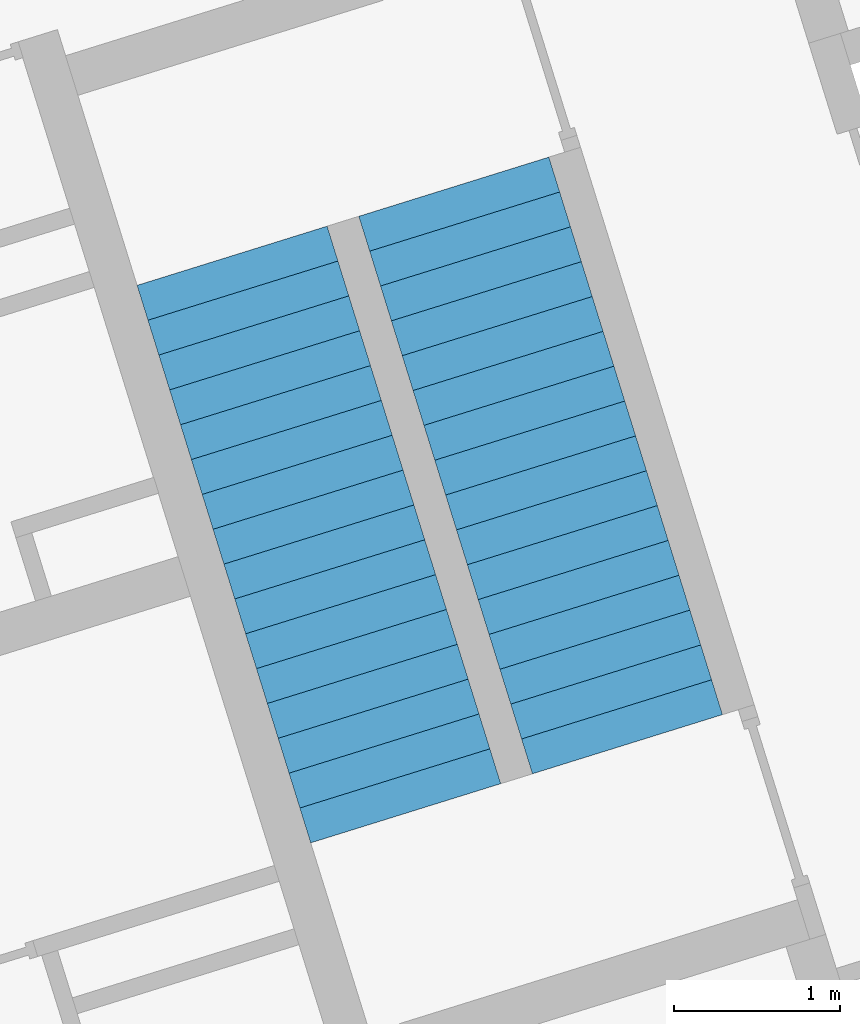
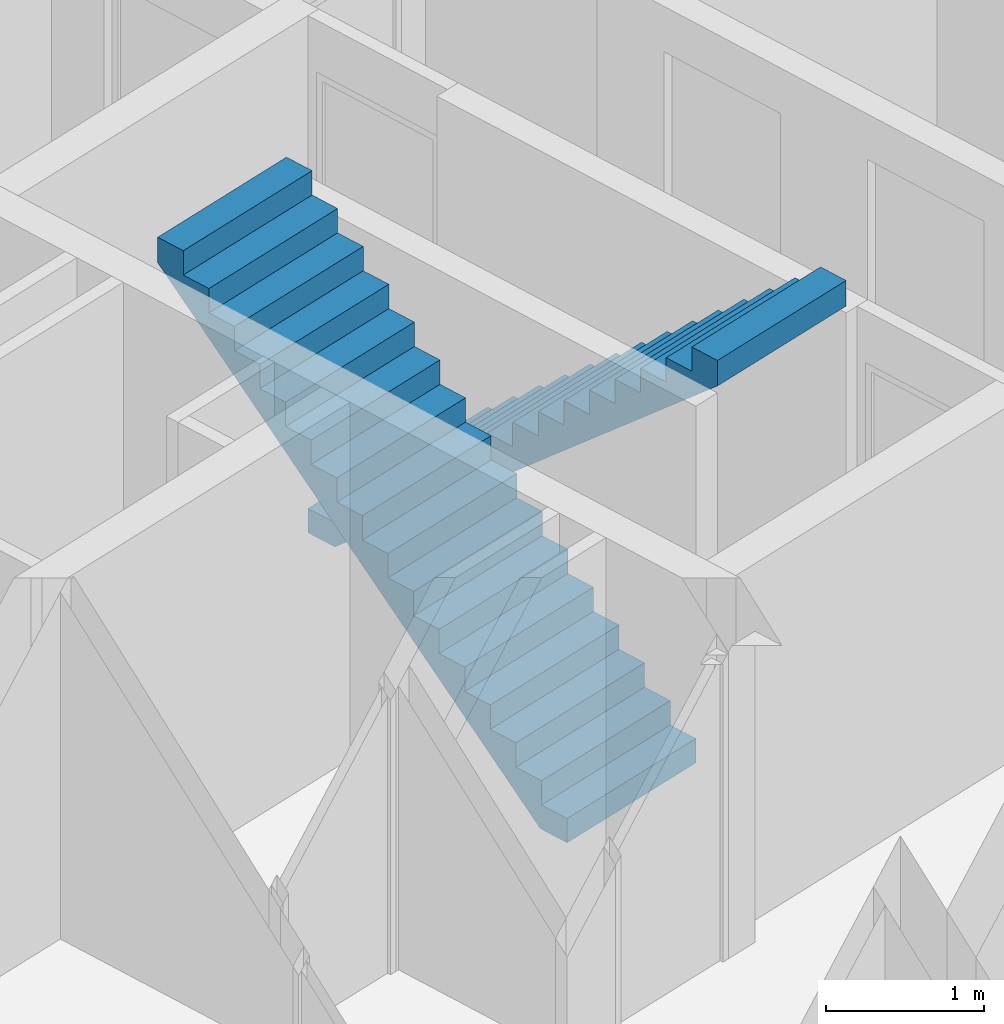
# One storey, part 12 of 12: 2 stair flights, 2 elements without a shape of their own.
"""IFC4 building model written with IfcOpenShell, lengths in metres."""

from ifc_helpers import new_model, entity, si_unit, converted_unit, direction, frame, origin, place, context, subcontext, project, spatial, polygons, material, type_object, element, aggregate, save


model = new_model("IFC4")

# Units and contexts
model_context = context("Model", 3, precision=1e-05, world=origin(), true_north=direction((6.12323399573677e-17, 1.0)))
body_context = subcontext(model_context, "Body", "Model", "MODEL_VIEW")
ifc_project = project(units=[si_unit("LENGTHUNIT", "METRE"), si_unit("AREAUNIT", "SQUARE_METRE"), converted_unit("PLANEANGLEUNIT", "DEGREE", entity("IfcPlaneAngleMeasure", 0.0174532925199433), si_unit("PLANEANGLEUNIT", "RADIAN"), dimensions=[0, 0, 0, 0, 0, 0, 0]), si_unit("VOLUMEUNIT", "CUBIC_METRE")], contexts=[model_context])

# Site, building, storey
site_placement = place(None, frame((13.1347999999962, 11.9886000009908, 0.0), z_axis=(0.0, 0.0, 1.0), x_axis=(0.954770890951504, 0.297342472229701, 0.0)))
site = spatial("IfcSite", under=ifc_project, at=site_placement, Name="Schiehaven", CompositionType="ELEMENT")
building_placement = place(site_placement, origin())
building = spatial("IfcBuilding", under=site, at=building_placement, Name="VORM huis", CompositionType="ELEMENT")
storey_placement = place(building_placement, frame((0.0, 0.0, 3.9)))
storey = spatial("IfcBuildingStorey", under=building, at=storey_placement, Name="01 eerste verdieping", CompositionType="ELEMENT", Elevation=3.9)

# Stair, stair flight
stair_type = type_object("IfcStairType", Name="Trap", PredefinedType="STRAIGHT_RUN_STAIR")
stair_1_placement = place(storey_placement, origin())
stair_1 = element("IfcStair", 1, at=stair_1_placement, inside=storey, type_object=stair_type, Name="Hoofdtrap", ObjectType="Precast Stair:NLRS_24_STR_reguliere trap-woonfunctie-breedte 1200mm_gen", PredefinedType="STRAIGHT_RUN_STAIR")
ifc_material = material(Name="beton_gewapend_prefab-element", Category="Miscellaneous")
stair_flight_type = type_object("IfcStairFlightType", Name="Monolithic Run:NLRS_24_STRR_trap-beton prefab-monolithisch-recht_gen_rsf", PredefinedType="STRAIGHT")
stair_flight_1_placement = place(stair_1_placement, frame((65.1250000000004, 15.29, 0.0)))
stair_flight_1 = element("IfcStairFlight", 2, at=stair_flight_1_placement, type_object=stair_flight_type, material=ifc_material, Name="Hoofdtrap Run 1", ObjectType="Monolithic Run:NLRS_24_STRR_trap-beton prefab-monolithisch-recht_gen_rsf", PredefinedType="STRAIGHT", context=body_context, shape_type="Tessellation", body=[
    polygons([(1.4210854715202e-14, 0.220000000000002, 0.1875), (1.4210854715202e-14, 1.77635683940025e-15, 0.1875), (1.20000000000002, 1.77635683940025e-15, 0.1875), (1.20000000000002, 0.220000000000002, 0.1875), (1.20000000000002, 1.77635683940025e-15, -4.44089209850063e-16), (1.20000000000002, 0.220000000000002, -4.44089209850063e-16), (1.4210854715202e-14, 1.77635683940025e-15, -4.44089209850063e-16), (1.4210854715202e-14, 0.220000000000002, -4.44089209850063e-16), (1.4210854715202e-14, 0.440000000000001, 0.375), (1.4210854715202e-14, 0.220000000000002, 0.375), (1.20000000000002, 0.220000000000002, 0.375), (1.20000000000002, 0.440000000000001, 0.375), (1.20000000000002, 0.231248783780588, 8.88178419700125e-16), (1.20000000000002, 0.440000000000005, 0.177912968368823), (1.4210854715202e-14, 0.440000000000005, 0.177912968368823), (1.4210854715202e-14, 0.231248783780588, 8.88178419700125e-16), (1.4210854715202e-14, 0.659999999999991, 0.5625), (1.4210854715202e-14, 0.440000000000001, 0.5625), (1.20000000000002, 0.440000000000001, 0.5625), (1.20000000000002, 0.659999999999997, 0.5625), (1.20000000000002, 0.660000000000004, 0.365412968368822), (1.4210854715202e-14, 0.660000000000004, 0.365412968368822), (1.4210854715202e-14, 0.879999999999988, 0.75), (1.4210854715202e-14, 0.659999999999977, 0.75), (1.20000000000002, 0.659999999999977, 0.75), (1.20000000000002, 0.879999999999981, 0.75), (1.20000000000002, 0.879999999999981, 0.5529129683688), (0.0, 0.879999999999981, 0.5529129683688), (0.0, 1.1, 0.9375), (0.0, 0.880000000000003, 0.9375), (1.20000000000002, 0.880000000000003, 0.9375), (1.20000000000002, 1.1, 0.9375), (1.20000000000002, 1.1, 0.740412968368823), (0.0, 1.1, 0.740412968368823), (0.0, 1.32, 1.125), (0.0, 1.1, 1.125), (1.20000000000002, 1.1, 1.125), (1.20000000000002, 1.32, 1.125), (1.20000000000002, 1.32, 0.927912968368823), (0.0, 1.32, 0.927912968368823), (0.0, 1.54, 1.3125), (0.0, 1.32, 1.3125), (1.20000000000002, 1.32, 1.3125), (1.20000000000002, 1.54, 1.3125), (1.20000000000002, 1.54000000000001, 1.11541296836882), (0.0, 1.54000000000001, 1.11541296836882), (0.0, 1.76, 1.5), (0.0, 1.54, 1.5), (1.20000000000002, 1.54, 1.5), (1.20000000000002, 1.76, 1.5), (1.20000000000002, 1.76000000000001, 1.30291296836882), (0.0, 1.76000000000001, 1.30291296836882), (0.0, 1.98, 1.6875), (0.0, 1.76000000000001, 1.6875), (1.20000000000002, 1.76000000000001, 1.6875), (1.20000000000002, 1.98, 1.6875), (1.20000000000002, 1.98000000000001, 1.49041296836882), (0.0, 1.98000000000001, 1.49041296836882), (0.0, 2.2, 1.875), (0.0, 1.98, 1.875), (1.20000000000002, 1.98, 1.875), (1.20000000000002, 2.2, 1.875), (1.20000000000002, 2.2, 1.67791296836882), (0.0, 2.2, 1.67791296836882), (0.0, 2.41999999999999, 2.0625), (0.0, 2.2, 2.0625), (1.20000000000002, 2.2, 2.0625), (1.20000000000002, 2.42, 2.0625), (1.20000000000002, 2.42000000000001, 1.86541296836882), (0.0, 2.42000000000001, 1.86541296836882), (0.0, 2.63999999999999, 2.25), (0.0, 2.41999999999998, 2.25), (1.20000000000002, 2.41999999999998, 2.25), (1.20000000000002, 2.63999999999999, 2.25), (1.20000000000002, 2.63999999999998, 2.0529129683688), (0.0, 2.63999999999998, 2.0529129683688), (0.0, 2.86, 2.4375), (0.0, 2.64, 2.4375), (1.2, 2.64, 2.4375), (1.2, 2.86, 2.4375), (1.2, 2.86, 2.24041296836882), (0.0, 2.86, 2.24041296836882), (0.0, 3.08, 2.625), (0.0, 2.86, 2.625), (1.2, 2.86, 2.625), (1.2, 3.08, 2.625), (1.2, 3.08, 2.42791296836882), (0.0, 3.08, 2.42791296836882), (0.0, 3.3, 2.8125), (0.0, 3.08000000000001, 2.8125), (1.2, 3.08000000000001, 2.8125), (1.2, 3.3, 2.8125), (1.2, 3.3, 2.61541296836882), (0.0, 3.3, 2.61541296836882), (0.0, 3.52, 3.0), (0.0, 3.3, 3.0), (1.2, 3.3, 3.0), (1.2, 3.52, 3.0), (1.2, 3.52, 2.80291296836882), (0.0, 3.52, 2.80291296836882)], [[[1, 2, 3, 4]], [[4, 3, 5, 6]], [[3, 2, 7, 5]], [[2, 1, 8, 7]], [[9, 10, 11, 12]], [[4, 6, 13, 14, 12, 11]], [[1, 4, 11, 10]], [[8, 1, 10, 9, 15, 16]], [[17, 18, 19, 20]], [[20, 19, 12, 14, 21]], [[9, 12, 19, 18]], [[18, 17, 22, 15, 9]], [[23, 24, 25, 26]], [[26, 25, 20, 21, 27]], [[17, 20, 25, 24]], [[24, 23, 28, 22, 17]], [[29, 30, 31, 32]], [[32, 31, 26, 27, 33]], [[23, 26, 31, 30]], [[30, 29, 34, 28, 23]], [[35, 36, 37, 38]], [[38, 37, 32, 33, 39]], [[29, 32, 37, 36]], [[36, 35, 40, 34, 29]], [[41, 42, 43, 44]], [[44, 43, 38, 39, 45]], [[35, 38, 43, 42]], [[42, 41, 46, 40, 35]], [[47, 48, 49, 50]], [[50, 49, 44, 45, 51]], [[41, 44, 49, 48]], [[48, 47, 52, 46, 41]], [[53, 54, 55, 56]], [[56, 55, 50, 51, 57]], [[47, 50, 55, 54]], [[54, 53, 58, 52, 47]], [[59, 60, 61, 62]], [[62, 61, 56, 57, 63]], [[53, 56, 61, 60]], [[60, 59, 64, 58, 53]], [[65, 66, 67, 68]], [[68, 67, 62, 63, 69]], [[59, 62, 67, 66]], [[66, 65, 70, 64, 59]], [[71, 72, 73, 74]], [[74, 73, 68, 69, 75]], [[65, 68, 73, 72]], [[72, 71, 76, 70, 65]], [[77, 78, 79, 80]], [[80, 79, 74, 75, 81]], [[71, 74, 79, 78]], [[78, 77, 82, 76, 71]], [[83, 84, 85, 86]], [[86, 85, 80, 81, 87]], [[77, 80, 85, 84]], [[84, 83, 88, 82, 77]], [[89, 90, 91, 92]], [[92, 91, 86, 87, 93]], [[83, 86, 91, 90]], [[90, 89, 94, 88, 83]], [[95, 96, 97, 98]], [[98, 97, 92, 93, 99]], [[89, 92, 97, 96]], [[96, 95, 100, 94, 89]], [[95, 98, 99, 100]], [[7, 8, 16, 13, 6, 5]], [[13, 16, 15, 22, 28, 34, 40, 46, 52, 58, 64, 70, 76, 82, 88, 94, 100, 99, 93, 87, 81, 75, 69, 63, 57, 51, 45, 39, 33, 27, 21, 14]]], closed=True),
])
aggregate(stair_1, [stair_flight_1])

stair_2_placement = place(storey_placement, origin())
stair_2 = element("IfcStair", 3, at=stair_2_placement, inside=storey, type_object=stair_type, Name="Hoofdtrap", ObjectType="Precast Stair:NLRS_24_STR_reguliere trap-woonfunctie-breedte 1200mm_gen", PredefinedType="STRAIGHT_RUN_STAIR")
stair_flight_2_placement = place(stair_2_placement, frame((66.5250000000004, 15.29, 0.0)))
stair_flight_2 = element("IfcStairFlight", 4, at=stair_flight_2_placement, type_object=stair_flight_type, material=ifc_material, Name="Hoofdtrap Run 1", ObjectType="Monolithic Run:NLRS_24_STRR_trap-beton prefab-monolithisch-recht_gen_rsf", PredefinedType="STRAIGHT", context=body_context, shape_type="Tessellation", body=[
    polygons([(1.2, 3.3, 0.1875), (1.2, 3.52, 0.1875), (0.0, 3.52, 0.1875), (0.0, 3.3, 0.1875), (0.0, 3.52, -4.44089209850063e-16), (0.0, 3.3, -4.44089209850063e-16), (1.2, 3.52, -4.44089209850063e-16), (1.2, 3.3, -4.44089209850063e-16), (1.2, 3.08, 0.375), (1.2, 3.3, 0.375), (0.0, 3.3, 0.375), (0.0, 3.08, 0.375), (0.0, 3.28875121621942, -4.44089209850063e-16), (0.0, 3.08000000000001, 0.177912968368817), (1.2, 3.08000000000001, 0.177912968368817), (1.2, 3.28875121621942, -4.44089209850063e-16), (1.20000000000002, 2.86000000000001, 0.5625), (1.2, 3.08, 0.5625), (0.0, 3.08, 0.5625), (0.0, 2.86000000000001, 0.5625), (0.0, 2.86, 0.365412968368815), (1.2, 2.86, 0.365412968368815), (1.2, 2.64000000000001, 0.75), (1.2, 2.86000000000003, 0.75), (0.0, 2.86000000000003, 0.75), (0.0, 2.64000000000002, 0.75), (0.0, 2.64000000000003, 0.552912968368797), (1.2, 2.64000000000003, 0.552912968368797), (1.20000000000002, 2.42, 0.9375), (1.2, 2.64, 0.9375), (0.0, 2.64, 0.9375), (1.4210854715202e-14, 2.42, 0.9375), (0.0, 2.42, 0.740412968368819), (1.2, 2.42, 0.740412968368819), (1.20000000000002, 2.2, 1.125), (1.2, 2.42, 1.125), (0.0, 2.42, 1.125), (1.4210854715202e-14, 2.2, 1.125), (0.0, 2.20000000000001, 0.927912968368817), (1.2, 2.20000000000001, 0.927912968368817), (1.20000000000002, 1.98, 1.3125), (1.2, 2.2, 1.3125), (0.0, 2.2, 1.3125), (1.4210854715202e-14, 1.98, 1.3125), (0.0, 1.98, 1.11541296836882), (1.2, 1.98, 1.11541296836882), (1.20000000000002, 1.76, 1.5), (1.2, 1.98, 1.5), (0.0, 1.98, 1.5), (1.4210854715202e-14, 1.76, 1.5), (0.0, 1.76000000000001, 1.30291296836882), (1.2, 1.76000000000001, 1.30291296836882), (1.20000000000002, 1.54, 1.6875), (1.2, 1.76, 1.6875), (0.0, 1.76, 1.6875), (1.4210854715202e-14, 1.54, 1.6875), (0.0, 1.54, 1.49041296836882), (1.2, 1.54, 1.49041296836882), (1.20000000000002, 1.32, 1.875), (1.2, 1.54, 1.875), (0.0, 1.54, 1.875), (1.4210854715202e-14, 1.32, 1.875), (0.0, 1.32, 1.67791296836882), (1.2, 1.32, 1.67791296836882), (1.20000000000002, 1.10000000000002, 2.0625), (1.2, 1.32, 2.0625), (0.0, 1.32, 2.0625), (1.4210854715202e-14, 1.10000000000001, 2.0625), (0.0, 1.1, 1.86541296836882), (1.2, 1.1, 1.86541296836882), (1.20000000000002, 0.880000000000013, 2.25), (1.2, 1.10000000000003, 2.25), (0.0, 1.10000000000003, 2.25), (1.4210854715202e-14, 0.880000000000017, 2.25), (1.4210854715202e-14, 0.880000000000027, 2.0529129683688), (1.20000000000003, 0.880000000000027, 2.0529129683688), (1.20000000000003, 0.660000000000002, 2.4375), (1.20000000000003, 0.880000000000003, 2.4375), (1.4210854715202e-14, 0.880000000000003, 2.4375), (1.4210854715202e-14, 0.660000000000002, 2.4375), (1.4210854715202e-14, 0.660000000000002, 2.24041296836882), (1.20000000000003, 0.660000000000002, 2.24041296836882), (1.20000000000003, 0.440000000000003, 2.625), (1.20000000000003, 0.660000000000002, 2.625), (1.4210854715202e-14, 0.660000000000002, 2.625), (1.4210854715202e-14, 0.440000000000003, 2.625), (1.4210854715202e-14, 0.440000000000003, 2.42791296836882), (1.20000000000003, 0.440000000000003, 2.42791296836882), (1.20000000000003, 0.220000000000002, 2.8125), (1.20000000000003, 0.440000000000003, 2.8125), (1.4210854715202e-14, 0.440000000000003, 2.8125), (1.4210854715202e-14, 0.220000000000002, 2.8125), (1.4210854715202e-14, 0.220000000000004, 2.61541296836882), (1.20000000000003, 0.220000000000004, 2.61541296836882), (1.20000000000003, 3.5527136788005e-15, 3.0), (1.20000000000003, 0.220000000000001, 3.0), (1.4210854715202e-14, 0.220000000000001, 3.0), (1.4210854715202e-14, 3.5527136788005e-15, 3.0), (1.4210854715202e-14, 3.5527136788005e-15, 2.80291296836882), (1.20000000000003, 3.5527136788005e-15, 2.80291296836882)], [[[1, 2, 3, 4]], [[4, 3, 5, 6]], [[3, 2, 7, 5]], [[2, 1, 8, 7]], [[9, 10, 11, 12]], [[4, 6, 13, 14, 12, 11]], [[1, 4, 11, 10]], [[8, 1, 10, 9, 15, 16]], [[17, 18, 19, 20]], [[20, 19, 12, 14, 21]], [[9, 12, 19, 18]], [[18, 17, 22, 15, 9]], [[23, 24, 25, 26]], [[26, 25, 20, 21, 27]], [[17, 20, 25, 24]], [[24, 23, 28, 22, 17]], [[29, 30, 31, 32]], [[32, 31, 26, 27, 33]], [[23, 26, 31, 30]], [[30, 29, 34, 28, 23]], [[35, 36, 37, 38]], [[38, 37, 32, 33, 39]], [[29, 32, 37, 36]], [[36, 35, 40, 34, 29]], [[41, 42, 43, 44]], [[44, 43, 38, 39, 45]], [[35, 38, 43, 42]], [[42, 41, 46, 40, 35]], [[47, 48, 49, 50]], [[50, 49, 44, 45, 51]], [[41, 44, 49, 48]], [[48, 47, 52, 46, 41]], [[53, 54, 55, 56]], [[56, 55, 50, 51, 57]], [[47, 50, 55, 54]], [[54, 53, 58, 52, 47]], [[59, 60, 61, 62]], [[62, 61, 56, 57, 63]], [[53, 56, 61, 60]], [[60, 59, 64, 58, 53]], [[65, 66, 67, 68]], [[68, 67, 62, 63, 69]], [[59, 62, 67, 66]], [[66, 65, 70, 64, 59]], [[71, 72, 73, 74]], [[74, 73, 68, 69, 75]], [[65, 68, 73, 72]], [[72, 71, 76, 70, 65]], [[77, 78, 79, 80]], [[80, 79, 74, 75, 81]], [[71, 74, 79, 78]], [[78, 77, 82, 76, 71]], [[83, 84, 85, 86]], [[86, 85, 80, 81, 87]], [[77, 80, 85, 84]], [[84, 83, 88, 82, 77]], [[89, 90, 91, 92]], [[92, 91, 86, 87, 93]], [[83, 86, 91, 90]], [[90, 89, 94, 88, 83]], [[95, 96, 97, 98]], [[98, 97, 92, 93, 99]], [[89, 92, 97, 96]], [[96, 95, 100, 94, 89]], [[95, 98, 99, 100]], [[7, 8, 16, 13, 6, 5]], [[13, 16, 15, 22, 28, 34, 40, 46, 52, 58, 64, 70, 76, 82, 88, 94, 100, 99, 93, 87, 81, 75, 69, 63, 57, 51, 45, 39, 33, 27, 21, 14]]], closed=True),
])
aggregate(stair_2, [stair_flight_2])

save(model, "model.ifc")
